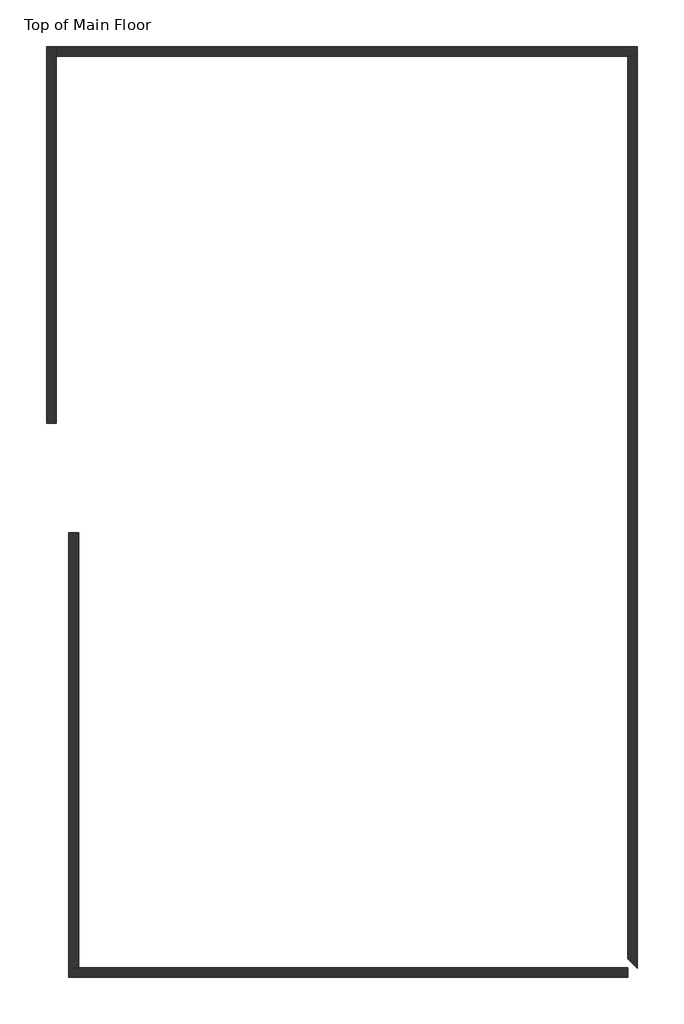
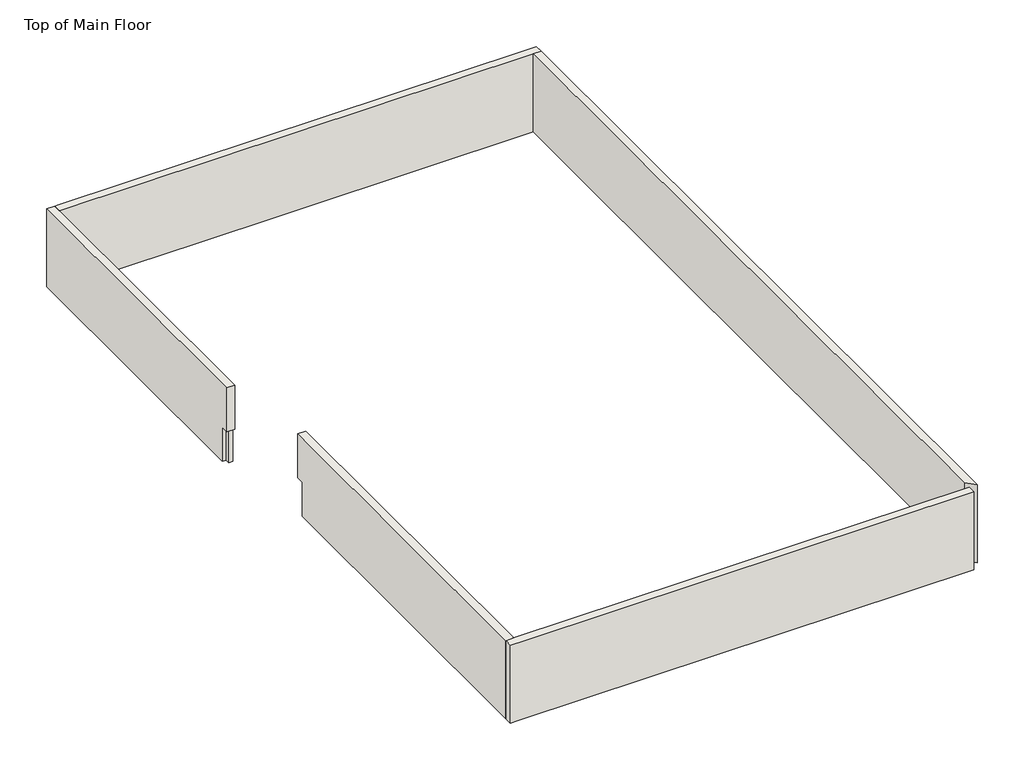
# One storey: 5 walls.
"""IFC4 building model written with IfcOpenShell, lengths in millimetres."""

from ifc_helpers import new_model, si_unit, origin, place, context, project, spatial, faceted_brep, element, save

model = new_model("IFC4")

# Units and contexts
model_context = context("Model", 3, world=origin())
ifc_project = project(units=[si_unit("LENGTHUNIT", "METRE", prefix="MILLI")], contexts=[model_context])

# Site, building, storey
site = spatial("IfcSite", under=ifc_project)
building = spatial("IfcBuilding", under=site)
storey = spatial("IfcBuildingStorey", under=building, Name="Top of Main Floor", Elevation=3606.8)

# Walls
placement = place(None, origin())
element("IfcWall", 1, ObjectType="Planitar - Generic 9 1/2\"", at=placement, inside=storey, context=model_context, shape_type="Brep", body=[
    faceted_brep([(-5846.1166136, 2479.4999204, 3606.8), (-5846.1166136, 2619.1999204, 3606.8), (-5846.1166136, 8696.1499204, 3606.8), (-5846.1166136, 11547.2999204, 3606.8), (-5846.1166136, 11788.5999204, 3606.8), (-5846.1166136, 11788.5999204, 6096.0), (-5846.1166136, 11547.2999204, 6096.0), (-5846.1166136, 2377.8999204, 6096.0), (-5846.1166136, 2377.8999204, 4699.0), (-5846.1166136, 2479.4999204, 4699.0), (-6087.4166136, 2619.1999204, 3606.8), (-6087.4166136, 2619.1999204, 4699.0), (-6087.4166136, 2377.8999204, 4699.0), (-6087.4166136, 2377.8999204, 6096.0), (-6087.4166136, 2619.1999204, 6096.0), (-6087.4166136, 11463.1113675, 6096.0), (-6087.4166136, 11788.5999204, 6096.0), (-6087.4166136, 11788.5999204, 3606.8), (-5966.7666136, 2479.4999204, 3606.8), (-5966.7666136, 2619.1999204, 3606.8), (-5966.7666136, 2619.1999204, 4699.0), (-5966.7666136, 2479.4999204, 4699.0)], [[[0, 1, 2, 3, 4, 5, 6, 7, 8, 9]], [[10, 11, 12, 13, 14, 15, 16, 17]], [[4, 3, 2, 1, 0, 18, 19, 10, 17]], [[7, 6, 5, 16, 15, 14, 13]], [[8, 12, 11, 20, 21, 9]], [[0, 9, 21, 18]], [[8, 7, 13, 12]], [[5, 4, 17, 16]], [[21, 20, 19, 18]], [[20, 11, 10, 19]]]),
])
element("IfcWall", 2, ObjectType="Planitar - Generic 9 1/2\"", at=placement, inside=storey, context=model_context, shape_type="Brep", body=[
    faceted_brep([(-5846.1166136, 11547.2999204, 3606.8), (-2245.6666136, 11547.2999204, 3606.8), (-2131.3666136, 11547.2999204, 3606.8), (8435.0333864, 11547.2999204, 3606.8), (8676.3333864, 11547.2999204, 3606.8), (8676.3333864, 11547.2999204, 6096.0), (8435.0333864, 11547.2999204, 6096.0), (-5846.1166136, 11547.2999204, 6096.0), (-5846.1166136, 11788.5999204, 3606.8), (-5846.1166136, 11788.5999204, 6096.0), (-5766.3267257, 11788.5999204, 6096.0), (8353.0441661, 11788.5999204, 6096.0), (8676.3333864, 11788.5999204, 6096.0), (8676.3333864, 11788.5999204, 3606.8), (-5757.2166136, 11788.5999204, 3606.8)], [[[0, 1, 2, 3, 4, 5, 6, 7]], [[8, 9, 10, 11, 12, 13, 14]], [[4, 3, 2, 1, 0, 8, 14, 13]], [[7, 6, 5, 12, 11, 10, 9]], [[0, 7, 9, 8]], [[5, 4, 13, 12]]]),
])
element("IfcWall", 3, ObjectType="Planitar - Generic 9 1/2\"", at=placement, inside=storey, context=model_context, shape_type="Brep", body=[
    faceted_brep([(8435.0333864, 11547.2999204, 3606.8), (8435.0333864, 2136.5999204, 3606.8), (8435.0333864, 2009.5999204, 3606.8), (8435.0333864, -358.9500796, 3606.8), (8435.0333864, -473.2500796, 3606.8), (8435.0333864, -10988.3312018, 3606.8), (8435.0333864, -10988.3312018, 6096.0), (8435.0333864, 11547.2999204, 6096.0), (8676.3333864, 11547.2999204, 3606.8), (8676.3333864, 11547.2999204, 6096.0), (8676.3333864, 11465.3107, 6096.0), (8676.3333864, -11229.6312018, 6096.0), (8676.3333864, -11229.6312018, 3606.8), (8676.3333864, -7655.1000796, 3606.8), (8676.3333864, 11509.1999204, 3606.8)], [[[0, 1, 2, 3, 4, 5, 6, 7]], [[8, 9, 10, 11, 12, 13, 14]], [[5, 4, 3, 2, 1, 0, 8, 14, 13, 12]], [[7, 6, 11, 10, 9]], [[0, 7, 9, 8]], [[6, 5, 12, 11]]]),
])
element("IfcWall", 4, ObjectType="Planitar - Generic 9 1/2\"", at=placement, inside=storey, context=model_context, shape_type="Brep", body=[
    faceted_brep([(8435.0333864, -11216.9312018, 3606.8), (2055.9754004, -11216.9312018, 3606.8), (1984.1333514, -11216.9312018, 3606.8), (-5287.3166136, -11216.9312018, 3606.8), (-5528.6166136, -11216.9312018, 3606.8), (-5528.6166136, -11216.9312018, 6096.0), (-5287.3166136, -11216.9312018, 6096.0), (8435.0333864, -11216.9312018, 6096.0), (8435.0333864, -11458.2312018, 3606.8), (8435.0333864, -11458.2312018, 6096.0), (-5109.5585154, -11458.2312018, 6096.0), (-5528.6166136, -11458.2312018, 6096.0), (-5528.6166136, -11458.2312018, 4220.127442), (-5528.6166136, -11458.2312018, 4049.2320854), (-5528.6166136, -11458.2312018, 3606.8), (-5274.6166136, -11458.2312018, 3606.8), (-5528.6166136, -11230.7108593, 6096.0)], [[[0, 1, 2, 3, 4, 5, 6, 7]], [[8, 9, 10, 11, 12, 13, 14, 15]], [[4, 3, 2, 1, 0, 8, 15, 14]], [[7, 6, 5, 16, 11, 10, 9]], [[5, 4, 14, 13, 12, 11, 16]], [[0, 7, 9, 8]]]),
])
element("IfcWall", 5, ObjectType="Planitar - Generic 9 1/2\"", at=placement, inside=storey, context=model_context, shape_type="Brep", body=[
    faceted_brep([(-5287.3166136, -11216.9312018, 3606.8), (-5287.3166136, -593.9000796, 3606.8), (-5287.3166136, -593.9000796, 4699.0), (-5287.3166136, -365.3000796, 4699.0), (-5287.3166136, -352.6000796, 4699.0), (-5287.3166136, -352.6000796, 6096.0), (-5287.3166136, -11216.9312018, 6096.0), (-5528.6166136, -11216.9312018, 3606.8), (-5528.6166136, -11216.9312018, 6096.0), (-5528.6166136, -593.9000796, 6096.0), (-5528.6166136, -352.6000796, 6096.0), (-5528.6166136, -352.6000796, 4699.0), (-5528.6166136, -593.9000796, 4699.0), (-5528.6166136, -593.9000796, 3606.8)], [[[0, 1, 2, 3, 4, 5, 6]], [[7, 8, 9, 10, 11, 12, 13]], [[1, 0, 7, 13]], [[6, 5, 10, 9, 8]], [[0, 6, 8, 7]], [[11, 4, 3, 2, 12]], [[2, 1, 13, 12]], [[5, 4, 11, 10]]]),
])

save(model, "model.ifc")
